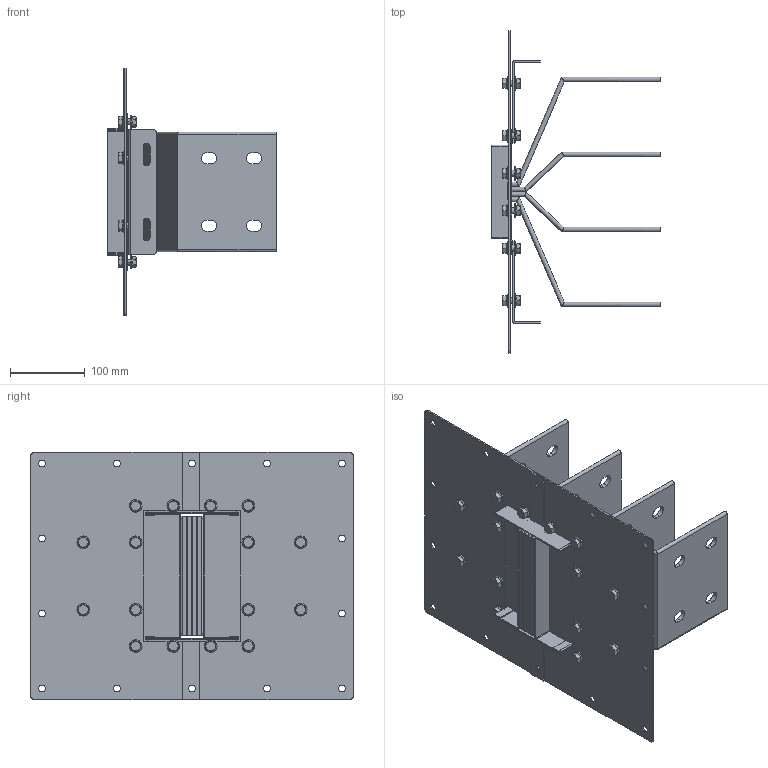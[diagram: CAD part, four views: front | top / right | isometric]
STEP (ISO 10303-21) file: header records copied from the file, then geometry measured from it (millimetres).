
FILE_DESCRIPTION(('CATIA V5 STEP','CAx-IF Rec.Pracs.--- Model Styling and Organization---1.5--- 2016-08-15','CAx-IF Rec.Pracs.---Supplemental Geometry---1.0---2011-11-01','CAx-IF Rec.Pracs.--- Composite Materials ---1.1---2010-07-15'),'2;1');
FILE_NAME('K:\COSCN 2011\32372311_RiduzioneSezioniBarre\03_Studio\__Modelli semplificati\XCP_UB semplificati per studi\XCP-HP_UB_4C_Pe_STD_Assieme\Cu\XCP-HP_UB_4C_Pe_S_Assieme - 2000A Cu\XCP-HP_UB_4C_Pe_S_Assieme - 2000A Cu.stp','2025-05-12T11:47:42+00:00',('Utente Bticino'),('Bticino S.p.A.'),'CATIA Version 5-6 Release 2020 SP5','CATIA V5 STEP AP214 v2','none');
FILE_SCHEMA(('AUTOMOTIVE_DESIGN { 1 0 10303 214 1 1 1 1 }'));
Length unit declared in the file: millimetre
Products named in the file (7): XCP-HP_UB_4C_Pe_S_Assieme - 2000A Cu; XCP-HP_UB_4C_Pe_S_PaccoBarre_2000A Cu; XCP-HP_UB_4C_Pe_S_Lamiere_2000A Cu; Viteria UB H130; Ass Vite+dado M8; Steel hex flanged SCREW M12x16; Steel hex flanged NUT M8
Assembly tree (21 placements, depth 4):
  XCP-HP_UB_4C_Pe_S_Assieme - 2000A Cu
    XCP-HP_UB_4C_Pe_S_PaccoBarre_2000A Cu
    XCP-HP_UB_4C_Pe_S_Lamiere_2000A Cu
    Viteria UB H130
      Ass Vite+dado M8  x16
        Steel hex flanged SCREW M12x16
        Steel hex flanged NUT M8
Bounding box: 225 x 430 x 330 mm (x, y, z)
Volume: 1503827 mm3; surface area: 851841.6 mm2
Topology: 44 solids, 44 shells, 1140 faces, 2796 edges, 1776 vertices
Faces by surface type: plane 480, cylinder 372, cone 128, bspline 128, torus 32
Entity records: 14707 total; most frequent: CARTESIAN_POINT 3464, ORIENTED_EDGE 2412, DIRECTION 1896, EDGE_CURVE 1206, AXIS2_PLACEMENT_3D 798, VERTEX_POINT 786, VECTOR 720, LINE 720
